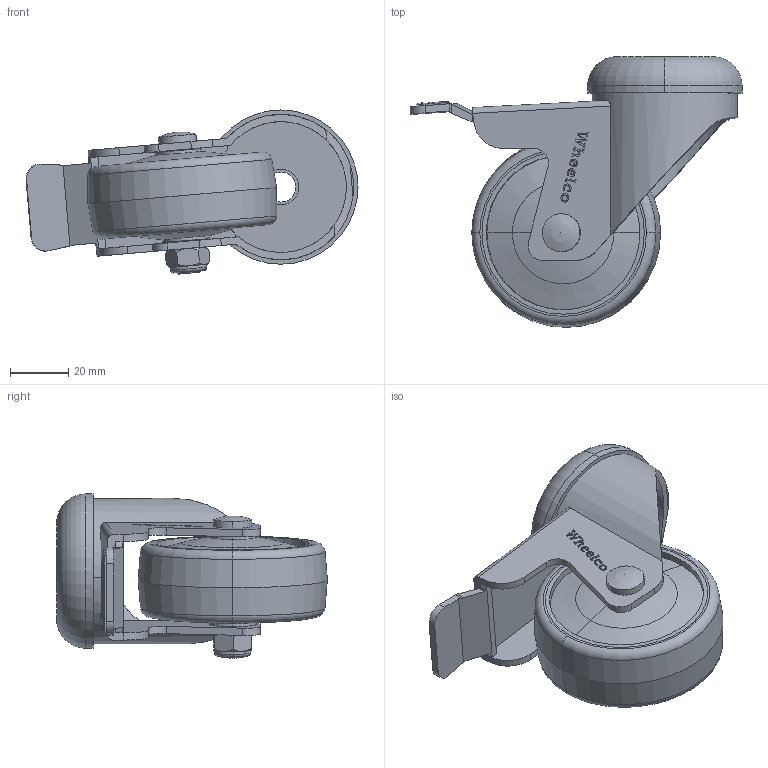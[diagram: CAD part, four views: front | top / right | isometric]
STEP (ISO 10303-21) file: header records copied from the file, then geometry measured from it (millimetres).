
FILE_DESCRIPTION (( 'STEP AP214' ), '1' );
FILE_NAME ('WLR65-H-TB 10MM.step', '2024-01-15T01:48:13', ( '' ), ( '' ), 'SwSTEP 2.0', 'SolidWorks 2022', '' );
FILE_SCHEMA (( 'AUTOMOTIVE_DESIGN' ));
Length unit declared in the file: millimetre
Products named in the file (6): M8Nyloc-WHITE; WLR65-H-TB 10MM; WL65-H-TB; WC-M8x48; WL65-H-TB 10MM CAP; WLR65
Assembly tree (5 placements, depth 2):
  WLR65-H-TB 10MM
    WC-M8x48
    M8Nyloc-WHITE
    WLR65
    WL65-H-TB
    WL65-H-TB 10MM CAP
Bounding box: 114.05 x 93 x 56.38 mm (x, y, z)
Volume: 131685.6 mm3; surface area: 41106.4 mm2
Topology: 5 solids, 5 shells, 338 faces, 880 edges, 571 vertices
Faces by surface type: plane 145, cylinder 98, bspline 58, cone 22, torus 14, sphere 1
Entity records: 16082 total; most frequent: CARTESIAN_POINT 8081, ORIENTED_EDGE 1754, DIRECTION 1346, EDGE_CURVE 877, VERTEX_POINT 569, VECTOR 494, LINE 494, AXIS2_PLACEMENT_3D 426
